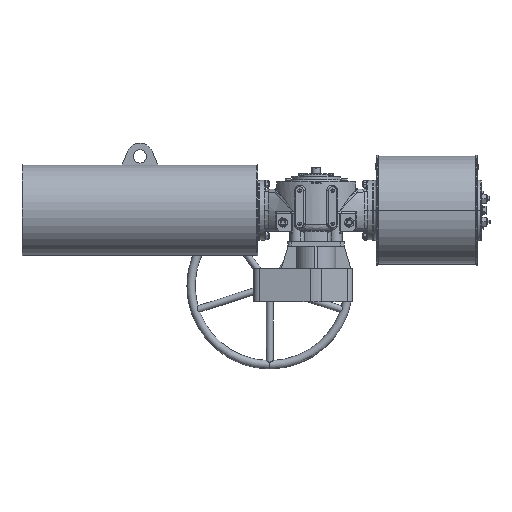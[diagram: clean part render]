
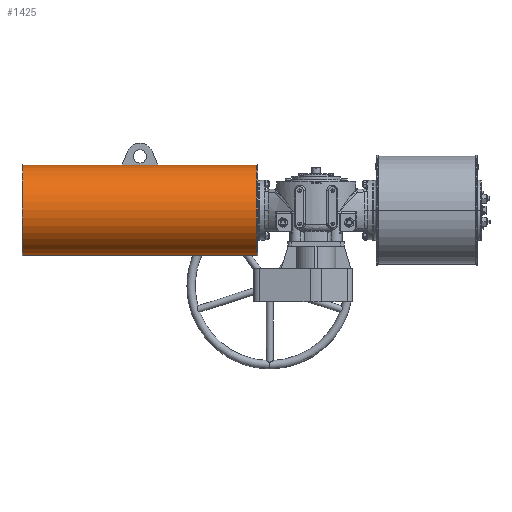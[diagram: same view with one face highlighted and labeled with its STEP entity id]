
A CAD part, front view. The second image highlights one B-rep face of the part: STEP entity #1425.
In plain terms, the highlighted cylindrical face has radius 136.5 mm (diameter 273 mm), a partial arc.
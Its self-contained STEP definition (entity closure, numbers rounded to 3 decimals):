
#869 = CARTESIAN_POINT ( 'NONE',  ( -180.523, 35.296, -134.5 ) ) ;
#1425 = ADVANCED_FACE ( 'NONE', ( #49569 ), #4406, .T. ) ;
#1572 = EDGE_CURVE ( 'NONE', #41751, #63387, #21493, .T. ) ;
#4406 = CYLINDRICAL_SURFACE ( 'NONE', #50751, 136.5 ) ;
#5516 = ORIENTED_EDGE ( 'NONE', *, *, #41583, .T. ) ;
#6247 = CARTESIAN_POINT ( 'NONE',  ( -476.523, 30.296, 138.408 ) ) ;
#6392 = CARTESIAN_POINT ( 'NONE',  ( -177.023, 35.296, 2. ) ) ;
#6540 = AXIS2_PLACEMENT_3D ( 'NONE', #18982, #28147, #44099 ) ;
#7255 = ORIENTED_EDGE ( 'NONE', *, *, #61855, .T. ) ;
#7339 = ORIENTED_EDGE ( 'NONE', *, *, #1572, .T. ) ;
#8246 = ORIENTED_EDGE ( 'NONE', *, *, #54224, .T. ) ;
#9917 = AXIS2_PLACEMENT_3D ( 'NONE', #36274, #62734, #52549 ) ;
#12867 = AXIS2_PLACEMENT_3D ( 'NONE', #6392, #62390, #51539 ) ;
#13909 = EDGE_CURVE ( 'NONE', #33583, #32434, #61824, .T. ) ;
#14386 = EDGE_CURVE ( 'NONE', #35748, #32434, #57911, .T. ) ;
#14558 = CARTESIAN_POINT ( 'NONE',  ( -180.523, 30.296, 138.408 ) ) ;
#15256 = VECTOR ( 'NONE', #41692, 1000. ) ;
#15607 = CARTESIAN_POINT ( 'NONE',  ( -476.523, 35.296, 2. ) ) ;
#16133 = LINE ( 'NONE', #31089, #34650 ) ;
#16574 = CARTESIAN_POINT ( 'NONE',  ( -180.523, 35.296, 138.5 ) ) ;
#17245 = LINE ( 'NONE', #16574, #64053 ) ;
#18982 = CARTESIAN_POINT ( 'NONE',  ( -884.023, 35.296, 2. ) ) ;
#20601 = ORIENTED_EDGE ( 'NONE', *, *, #38062, .T. ) ;
#21152 = CARTESIAN_POINT ( 'NONE',  ( -177.023, -101.204, 2. ) ) ;
#21493 = CIRCLE ( 'NONE', #27973, 136.5 ) ;
#23011 = DIRECTION ( 'NONE',  ( -1., 0., 0. ) ) ;
#23554 = EDGE_CURVE ( 'NONE', #30893, #27605, #45667, .T. ) ;
#25121 = CARTESIAN_POINT ( 'NONE',  ( -584.523, 30.296, 138.408 ) ) ;
#25347 = CARTESIAN_POINT ( 'NONE',  ( -476.523, 35.296, 138.5 ) ) ;
#26872 = CARTESIAN_POINT ( 'NONE',  ( -177.023, 35.296, -134.5 ) ) ;
#26988 = DIRECTION ( 'NONE',  ( -1., 0., 0. ) ) ;
#27535 = CARTESIAN_POINT ( 'NONE',  ( -584.523, 35.296, 2. ) ) ;
#27605 = VERTEX_POINT ( 'NONE', #64316 ) ;
#27973 = AXIS2_PLACEMENT_3D ( 'NONE', #15607, #31896, #35973 ) ;
#28126 = EDGE_CURVE ( 'NONE', #60481, #63387, #45435, .T. ) ;
#28147 = DIRECTION ( 'NONE',  ( 1., 0., 0. ) ) ;
#29534 = DIRECTION ( 'NONE',  ( 0., 0., 1. ) ) ;
#30191 = CIRCLE ( 'NONE', #12867, 136.5 ) ;
#30893 = VERTEX_POINT ( 'NONE', #21152 ) ;
#31089 = CARTESIAN_POINT ( 'NONE',  ( -180.523, 35.296, 138.5 ) ) ;
#31896 = DIRECTION ( 'NONE',  ( 1., 0., 0. ) ) ;
#32434 = VERTEX_POINT ( 'NONE', #60311 ) ;
#33583 = VERTEX_POINT ( 'NONE', #53972 ) ;
#34650 = VECTOR ( 'NONE', #41604, 1000. ) ;
#35748 = VERTEX_POINT ( 'NONE', #26872 ) ;
#35973 = DIRECTION ( 'NONE',  ( 0., -1., 0. ) ) ;
#36095 = VERTEX_POINT ( 'NONE', #42745 ) ;
#36274 = CARTESIAN_POINT ( 'NONE',  ( -177.023, 35.296, 2. ) ) ;
#38062 = EDGE_CURVE ( 'NONE', #27605, #41751, #16133, .T. ) ;
#39712 = DIRECTION ( 'NONE',  ( -1., 0., 0. ) ) ;
#40528 = AXIS2_PLACEMENT_3D ( 'NONE', #27535, #42477, #58447 ) ;
#41583 = EDGE_CURVE ( 'NONE', #36095, #33583, #17245, .T. ) ;
#41604 = DIRECTION ( 'NONE',  ( -1., 0., 0. ) ) ;
#41692 = DIRECTION ( 'NONE',  ( 1., 0., 0. ) ) ;
#41751 = VERTEX_POINT ( 'NONE', #25347 ) ;
#41863 = ORIENTED_EDGE ( 'NONE', *, *, #23554, .T. ) ;
#42477 = DIRECTION ( 'NONE',  ( -1., 0., 0. ) ) ;
#42745 = CARTESIAN_POINT ( 'NONE',  ( -584.523, 35.296, 138.5 ) ) ;
#42920 = ORIENTED_EDGE ( 'NONE', *, *, #14386, .F. ) ;
#44099 = DIRECTION ( 'NONE',  ( 0., 0., 1. ) ) ;
#45435 = LINE ( 'NONE', #14558, #15256 ) ;
#45667 = CIRCLE ( 'NONE', #9917, 136.5 ) ;
#45823 = CARTESIAN_POINT ( 'NONE',  ( -180.523, 35.296, 2. ) ) ;
#46839 = VECTOR ( 'NONE', #26988, 1000. ) ;
#49088 = EDGE_LOOP ( 'NONE', ( #42920, #7255, #41863, #20601, #7339, #49556, #8246, #5516, #54738 ) ) ;
#49556 = ORIENTED_EDGE ( 'NONE', *, *, #28126, .F. ) ;
#49569 = FACE_OUTER_BOUND ( 'NONE', #49088, .T. ) ;
#50751 = AXIS2_PLACEMENT_3D ( 'NONE', #45823, #39712, #29534 ) ;
#51539 = DIRECTION ( 'NONE',  ( 0., 0., 1. ) ) ;
#52549 = DIRECTION ( 'NONE',  ( 0., 0., 1. ) ) ;
#53972 = CARTESIAN_POINT ( 'NONE',  ( -884.023, 35.296, 138.5 ) ) ;
#54224 = EDGE_CURVE ( 'NONE', #60481, #36095, #66512, .T. ) ;
#54738 = ORIENTED_EDGE ( 'NONE', *, *, #13909, .T. ) ;
#57911 = LINE ( 'NONE', #869, #46839 ) ;
#58447 = DIRECTION ( 'NONE',  ( 0., 1., 0. ) ) ;
#60311 = CARTESIAN_POINT ( 'NONE',  ( -884.023, 35.296, -134.5 ) ) ;
#60481 = VERTEX_POINT ( 'NONE', #25121 ) ;
#61824 = CIRCLE ( 'NONE', #6540, 136.5 ) ;
#61855 = EDGE_CURVE ( 'NONE', #35748, #30893, #30191, .T. ) ;
#62390 = DIRECTION ( 'NONE',  ( -1., 0., 0. ) ) ;
#62734 = DIRECTION ( 'NONE',  ( -1., 0., 0. ) ) ;
#63387 = VERTEX_POINT ( 'NONE', #6247 ) ;
#64053 = VECTOR ( 'NONE', #23011, 1000. ) ;
#64316 = CARTESIAN_POINT ( 'NONE',  ( -177.023, 35.296, 138.5 ) ) ;
#66512 = CIRCLE ( 'NONE', #40528, 136.5 ) ;
